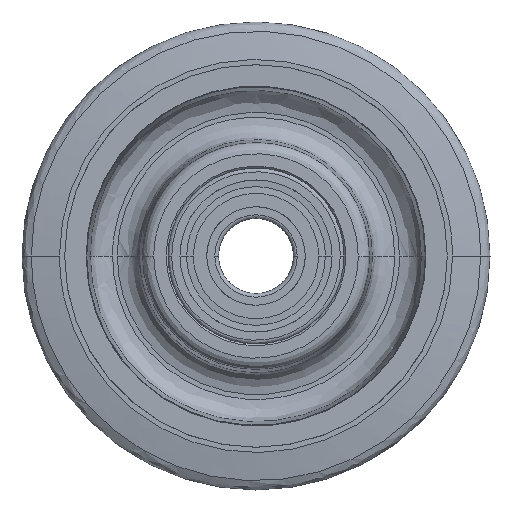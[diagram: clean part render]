
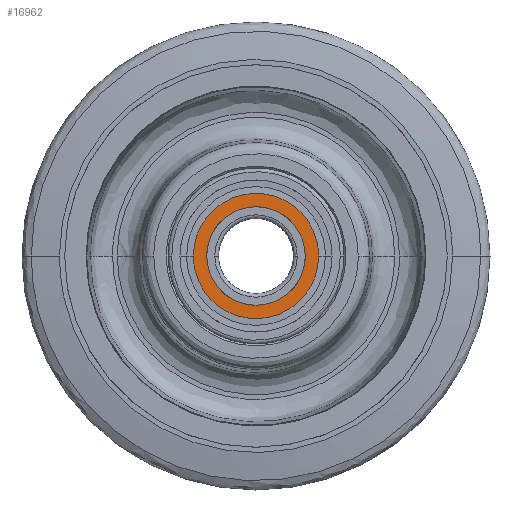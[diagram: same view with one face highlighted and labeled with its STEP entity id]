
A CAD part, left-side view. The second image highlights one B-rep face of the part: STEP entity #16962.
In plain terms, the highlighted planar face has unit normal (-1, 0, 0).
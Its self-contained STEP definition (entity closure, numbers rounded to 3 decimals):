
#14855 = CARTESIAN_POINT ( 'NONE',  ( -21.282, 16.725, 0. ) ) ;
#14856 = CARTESIAN_POINT ( 'NONE',  ( -21.282, 16.725, -1.093 ) ) ;
#14911 = CARTESIAN_POINT ( 'NONE',  ( -21.282, -16.725, 0. ) ) ;
#14912 = CARTESIAN_POINT ( 'NONE',  ( -21.282, -16.725, 1.095 ) ) ;
#14913 = CARTESIAN_POINT ( 'NONE',  ( -21.282, -16.509, 3.284 ) ) ;
#14914 = CARTESIAN_POINT ( 'NONE',  ( -21.282, -15.551, 6.442 ) ) ;
#14915 = CARTESIAN_POINT ( 'NONE',  ( -21.282, -13.996, 9.352 ) ) ;
#14916 = CARTESIAN_POINT ( 'NONE',  ( -21.282, -11.903, 11.903 ) ) ;
#14917 = CARTESIAN_POINT ( 'NONE',  ( -21.282, -9.352, 13.996 ) ) ;
#14918 = CARTESIAN_POINT ( 'NONE',  ( -21.282, -6.442, 15.551 ) ) ;
#14919 = CARTESIAN_POINT ( 'NONE',  ( -21.282, -3.284, 16.509 ) ) ;
#14920 = CARTESIAN_POINT ( 'NONE',  ( -21.282, 0., 16.833 ) ) ;
#14921 = CARTESIAN_POINT ( 'NONE',  ( -21.282, 3.284, 16.509 ) ) ;
#14922 = CARTESIAN_POINT ( 'NONE',  ( -21.282, 6.442, 15.551 ) ) ;
#14923 = CARTESIAN_POINT ( 'NONE',  ( -21.282, 9.352, 13.996 ) ) ;
#14924 = CARTESIAN_POINT ( 'NONE',  ( -21.282, 11.903, 11.903 ) ) ;
#14925 = CARTESIAN_POINT ( 'NONE',  ( -21.282, 13.996, 9.352 ) ) ;
#14928 = CARTESIAN_POINT ( 'NONE',  ( -21.282, -16.725, 0. ) ) ;
#14969 = CARTESIAN_POINT ( 'NONE',  ( -21.282, 16.509, -3.285 ) ) ;
#14970 = CARTESIAN_POINT ( 'NONE',  ( -21.282, 15.551, -6.441 ) ) ;
#14971 = CARTESIAN_POINT ( 'NONE',  ( -21.282, 13.996, -9.352 ) ) ;
#14972 = CARTESIAN_POINT ( 'NONE',  ( -21.282, 11.903, -11.903 ) ) ;
#14973 = CARTESIAN_POINT ( 'NONE',  ( -21.282, 9.352, -13.996 ) ) ;
#14974 = CARTESIAN_POINT ( 'NONE',  ( -21.282, 6.442, -15.551 ) ) ;
#14975 = CARTESIAN_POINT ( 'NONE',  ( -21.282, 3.284, -16.509 ) ) ;
#14976 = CARTESIAN_POINT ( 'NONE',  ( -21.282, 0., -16.833 ) ) ;
#14977 = CARTESIAN_POINT ( 'NONE',  ( -21.282, -3.284, -16.509 ) ) ;
#14978 = CARTESIAN_POINT ( 'NONE',  ( -21.282, -6.442, -15.551 ) ) ;
#14979 = CARTESIAN_POINT ( 'NONE',  ( -21.282, -9.352, -13.996 ) ) ;
#14980 = CARTESIAN_POINT ( 'NONE',  ( -21.282, -11.903, -11.903 ) ) ;
#14981 = CARTESIAN_POINT ( 'NONE',  ( -21.282, -13.996, -9.352 ) ) ;
#14982 = CARTESIAN_POINT ( 'NONE',  ( -21.282, -15.551, -6.442 ) ) ;
#14983 = CARTESIAN_POINT ( 'NONE',  ( -21.282, -16.509, -3.284 ) ) ;
#14984 = CARTESIAN_POINT ( 'NONE',  ( -21.282, -16.725, -1.095 ) ) ;
#14985 = CARTESIAN_POINT ( 'NONE',  ( -21.282, -16.725, 0. ) ) ;
#15025 = CARTESIAN_POINT ( 'NONE',  ( -21.282, 15.551, 6.441 ) ) ;
#15026 = CARTESIAN_POINT ( 'NONE',  ( -21.282, 16.509, 3.285 ) ) ;
#15027 = CARTESIAN_POINT ( 'NONE',  ( -21.282, 16.725, 1.093 ) ) ;
#15028 = CARTESIAN_POINT ( 'NONE',  ( -21.282, 16.725, 0. ) ) ;
#15030 = B_SPLINE_CURVE_WITH_KNOTS ( 'NONE', 3,
 ( #15028, #15027, #15026, #15025, #14925, #14924, #14923, #14922, #14921, #14920, #14919, #14918, #14917, #14916, #14915, #14914, #14913, #14912, #14911 ),
 .UNSPECIFIED., .F., .F.,
 ( 4, 1, 1, 1, 1, 1, 1, 1, 1, 1, 1, 1, 1, 1, 1, 1, 4 ),
 ( 0.053, 0.056, 0.059, 0.062, 0.066, 0.069, 0.072, 0.076, 0.079, 0.082, 0.085, 0.089, 0.092, 0.095, 0.099, 0.102, 0.105 ),
 .UNSPECIFIED. ) ;
#15031 = DIRECTION ( 'NONE',  ( 0., 0., -1. ) ) ;
#15032 = DIRECTION ( 'NONE',  ( 1., 0., 0. ) ) ;
#15033 = AXIS2_PLACEMENT_3D ( 'NONE', #15040, #15032, #15031 ) ;
#15034 = CIRCLE ( 'NONE', #15033, 13.15 ) ;
#15040 = CARTESIAN_POINT ( 'NONE',  ( -21.282, 0., 0. ) ) ;
#15147 = B_SPLINE_CURVE_WITH_KNOTS ( 'NONE', 3,
 ( #14985, #14984, #14983, #14982, #14981, #14980, #14979, #14978, #14977, #14976, #14975, #14974, #14973, #14972, #14971, #14970, #14969, #14856, #14855 ),
 .UNSPECIFIED., .F., .F.,
 ( 4, 1, 1, 1, 1, 1, 1, 1, 1, 1, 1, 1, 1, 1, 1, 1, 4 ),
 ( 0., 0.003, 0.007, 0.01, 0.013, 0.016, 0.02, 0.023, 0.026, 0.03, 0.033, 0.036, 0.039, 0.043, 0.046, 0.049, 0.053 ),
 .UNSPECIFIED. ) ;
#15148 = CARTESIAN_POINT ( 'NONE',  ( -21.282, 16.725, 0. ) ) ;
#15180 = FACE_OUTER_BOUND ( 'NONE', #16924, .T. ) ;
#15181 = FACE_BOUND ( 'NONE', #16963, .T. ) ;
#15182 = DIRECTION ( 'NONE',  ( 1., 0., 0. ) ) ;
#15183 = CARTESIAN_POINT ( 'NONE',  ( -21.282, 33.45, -33.45 ) ) ;
#15184 = AXIS2_PLACEMENT_3D ( 'NONE', #15183, #15182, #15375 ) ;
#15270 = PLANE ( 'NONE',  #15184 ) ;
#15368 = CARTESIAN_POINT ( 'NONE',  ( -21.282, 0., 13.15 ) ) ;
#15369 = CARTESIAN_POINT ( 'NONE',  ( -21.282, 0., -13.15 ) ) ;
#15370 = DIRECTION ( 'NONE',  ( 0., 0., -1. ) ) ;
#15371 = DIRECTION ( 'NONE',  ( 1., 0., 0. ) ) ;
#15372 = CARTESIAN_POINT ( 'NONE',  ( -21.282, 0., 0. ) ) ;
#15373 = AXIS2_PLACEMENT_3D ( 'NONE', #15372, #15371, #15370 ) ;
#15374 = CIRCLE ( 'NONE', #15373, 13.15 ) ;
#15375 = DIRECTION ( 'NONE',  ( 0., 0., -1. ) ) ;
#16919 = ORIENTED_EDGE ( 'NONE', *, *, #16921, .T. ) ;
#16921 = EDGE_CURVE ( 'NONE', #16968, #16966, #15034, .T. ) ;
#16924 = EDGE_LOOP ( 'NONE', ( #16926, #16930 ) ) ;
#16926 = ORIENTED_EDGE ( 'NONE', *, *, #16928, .F. ) ;
#16928 = EDGE_CURVE ( 'NONE', #16957, #16950, #15030, .T. ) ;
#16930 = ORIENTED_EDGE ( 'NONE', *, *, #16954, .F. ) ;
#16950 = VERTEX_POINT ( 'NONE', #14928 ) ;
#16954 = EDGE_CURVE ( 'NONE', #16950, #16957, #15147, .T. ) ;
#16957 = VERTEX_POINT ( 'NONE', #15148 ) ;
#16962 = ADVANCED_FACE ( 'NONE', ( #15181, #15180 ), #15270, .F. ) ;
#16963 = EDGE_LOOP ( 'NONE', ( #16964, #16919 ) ) ;
#16964 = ORIENTED_EDGE ( 'NONE', *, *, #16965, .T. ) ;
#16965 = EDGE_CURVE ( 'NONE', #16966, #16968, #15374, .T. ) ;
#16966 = VERTEX_POINT ( 'NONE', #15369 ) ;
#16968 = VERTEX_POINT ( 'NONE', #15368 ) ;
